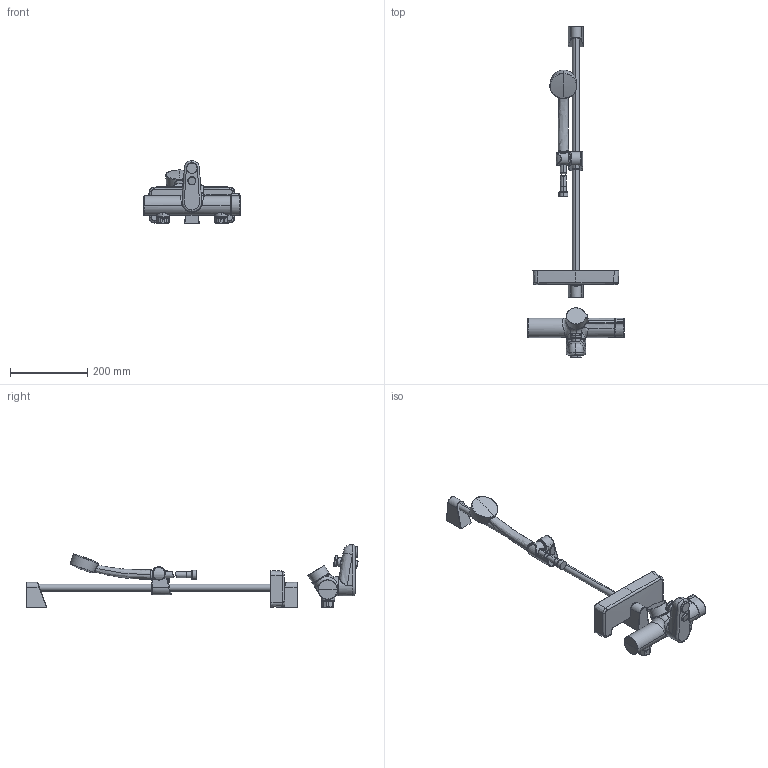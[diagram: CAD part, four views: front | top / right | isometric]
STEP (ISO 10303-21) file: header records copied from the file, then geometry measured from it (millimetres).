
FILE_DESCRIPTION (( 'STEP AP203' ), '1' );
FILE_NAME ('7248.STEP', '2017-03-28T09:16:14', ( '' ), ( '' ), 'SwSTEP 2.0', 'SolidWorks 2016', '' );
FILE_SCHEMA (( 'CONFIG_CONTROL_DESIGN' ));
Length unit declared in the file: millimetre
Products named in the file (1): 7248
Bounding box: 249.89 x 857.01 x 161.6 mm (x, y, z)
Surface area: 288910.7 mm2 (no closed solid volume)
Topology: 0 solids, 38 shells, 947 faces, 2256 edges, 1390 vertices
Faces by surface type: plane 256, bspline 238, cylinder 188, torus 134, cone 102, sphere 29
Entity records: 66633 total; most frequent: CARTESIAN_POINT 46379, ORIENTED_EDGE 4488, DIRECTION 3920, EDGE_CURVE 2245, AXIS2_PLACEMENT_3D 1658, VERTEX_POINT 1385, EDGE_LOOP 991, CIRCLE 948
